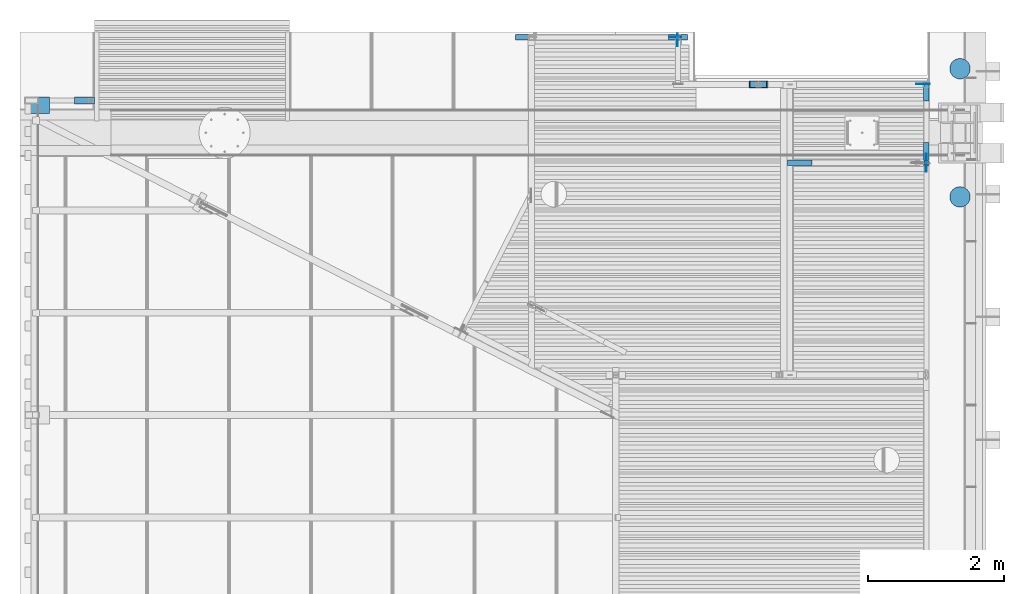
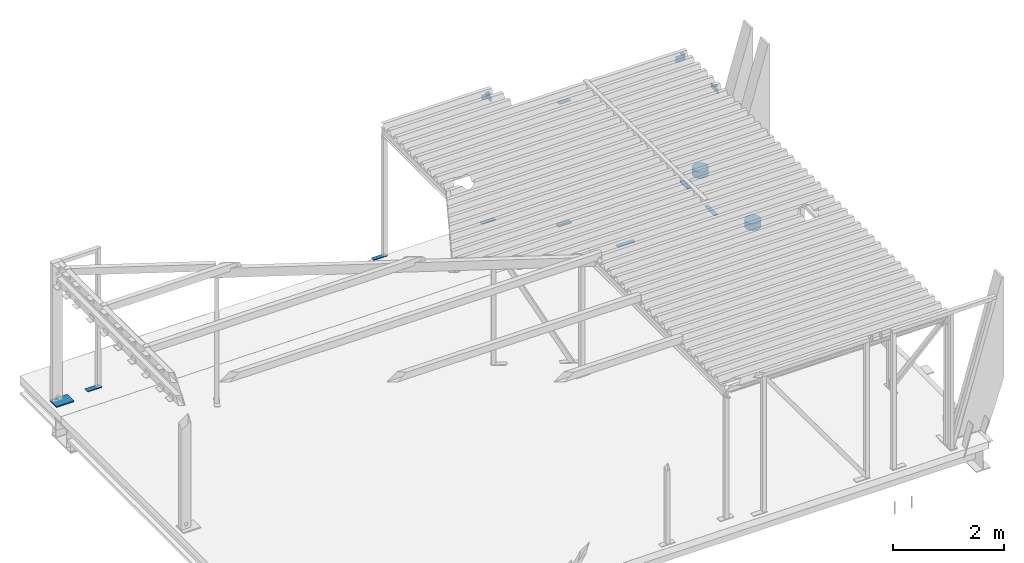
# One storey, part 5 of 30: 18 columns.
"""IFC2X3 building model written with IfcOpenShell, lengths in millimetres."""

from ifc_helpers import new_model, entity, si_unit, converted_unit, derived_unit, direction, frame, origin_with_axes, place, context, subcontext, project, spatial, faceted_brep, material, type_object, element, save


model = new_model("IFC2X3")

# Units and contexts
model_context = context("Model", 3, precision=0.01, world=frame((0.0, 4.29681676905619e-09, 0.0)), true_north=direction((4.01073788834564e-13, 1.0)))
plan_context = context("Plan", 3, precision=0.01, world=frame((0.0, 4.29681676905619e-09, 0.0)), true_north=direction((4.01073788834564e-13, 1.0)))
body_context = subcontext(model_context, "Body", "Model", "MODEL_VIEW")
ifc_project = project(units=[converted_unit("PLANEANGLEUNIT", "DEGREE", entity("IfcPositiveLengthMeasure", 0.0174532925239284), si_unit("PLANEANGLEUNIT", "RADIAN"), dimensions=[0, 0, 0, 0, 0, 0, 0]), si_unit("AREAUNIT", "SQUARE_METRE"), si_unit("LENGTHUNIT", "METRE", prefix="MILLI"), si_unit("MASSUNIT", "GRAM", prefix="KILO"), si_unit("POWERUNIT", "WATT"), si_unit("PRESSUREUNIT", "PASCAL"), si_unit("FORCEUNIT", "NEWTON", prefix="KILO"), si_unit("ELECTRICVOLTAGEUNIT", "VOLT"), si_unit("ELECTRICCURRENTUNIT", "AMPERE"), si_unit("THERMODYNAMICTEMPERATUREUNIT", "DEGREE_CELSIUS"), si_unit("TIMEUNIT", "SECOND"), si_unit("VOLUMEUNIT", "CUBIC_METRE"), derived_unit("LINEARVELOCITYUNIT", [(si_unit("LENGTHUNIT", "METRE"), 1), (si_unit("TIMEUNIT", "SECOND"), -1)]), derived_unit("VOLUMETRICFLOWRATEUNIT", [(si_unit("VOLUMEUNIT", "CUBIC_METRE"), 1), (si_unit("TIMEUNIT", "SECOND"), -1)]), derived_unit("THERMALTRANSMITTANCEUNIT", [(si_unit("POWERUNIT", "WATT"), 1), (si_unit("THERMODYNAMICTEMPERATUREUNIT", "KELVIN"), -1), (si_unit("AREAUNIT", "SQUARE_METRE"), -1)]), derived_unit("SOUNDPRESSUREUNIT", [(si_unit("PRESSUREUNIT", "PASCAL"), 1)])], contexts=[model_context, plan_context])

# Site, building, storey
site_placement = place(None, frame((0.0, -4.29681676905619e-09, 0.0), z_axis=(0.0, 0.0, 1.0), x_axis=(1.0, 0.0, 0.0)))
site = spatial("IfcSite", under=ifc_project, at=site_placement, Name="Gardermoen", CompositionType="ELEMENT")
building_placement = place(site_placement, frame((0.0, 4.29681676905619e-09, 0.0), z_axis=(0.0, 0.0, 1.0), x_axis=(1.0, 0.0, 0.0)))
building = spatial("IfcBuilding", under=site, at=building_placement, Name="TI", CompositionType="ELEMENT")
storey_placement = place(building_placement, origin_with_axes())
storey = spatial("IfcBuildingStorey", under=building, at=storey_placement, Name="F", CompositionType="ELEMENT", Elevation=0.0)

# Columns
ifc_material_1 = material(Name="STEEL/S355")
column_type_1 = type_object("IfcColumnType", Name="PL8*140", PredefinedType="NOTDEFINED")
column_1_placement = place(storey_placement, frame((611239.642295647, 698716.654240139, 213679.999885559), z_axis=(0.0, 0.0, -1.0), x_axis=(0.999999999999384, -1.10999957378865e-06, 0.0)))
element("IfcColumn", 1, at=column_1_placement, inside=storey, type_object=column_type_1, material=ifc_material_1, Name="STÅLSØYLE", ObjectType="PL8*140", context=body_context, shape_type="Brep", body=[
    faceted_brep([(-5.82076609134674e-11, -3.99999999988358, 0.0), (-100.000053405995, -3.99999999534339, 0.0), (-100.000053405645, 4.00000000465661, 0.0), (-5.82076609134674e-11, 4.00000000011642, -5.82076609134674e-11), (-100.000053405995, -3.99999999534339, 140.0), (-100.000053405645, 4.00000000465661, 140.0), (99.9999999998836, -4.00000000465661, 140.0), (100.000000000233, 3.9999999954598, 140.0), (100.0, -4.0, 0.0), (100.0, 4.0, 0.0)], [[[0, 1, 2, 3]], [[1, 4, 5, 2]], [[4, 6, 7, 5]], [[6, 8, 9, 7]], [[8, 0, 3, 9]], [[5, 7, 9, 3, 2]], [[8, 6, 4, 1, 0]]]),
])
column_type_2 = type_object("IfcColumnType", Name="PL15*100", PredefinedType="NOTDEFINED")
column_2_placement = place(storey_placement, frame((598800.004766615, 698474.003958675, 210837.5), z_axis=(3.9659997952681e-06, 0.999999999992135, 0.0), x_axis=(0.999999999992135, -3.9659997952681e-06, 0.0)))
element("IfcColumn", 2, at=column_2_placement, inside=storey, type_object=column_type_2, material=ifc_material_1, Name="STÅLSØYLE", ObjectType="PL15*100", context=body_context, shape_type="Brep", body=[
    faceted_brep([(2.3283064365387e-10, 7.5, -50.0), (-3.49245965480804e-10, 7.5, 50.0), (290.00284047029, 7.5, 50.0000000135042), (290.00284047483, 7.5, -49.99999998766), (-3.49245965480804e-10, -7.5, 50.0), (290.00284047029, -7.5, 50.0000000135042), (2.3283064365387e-10, -7.5, -50.0), (290.00284047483, -7.5, -49.99999998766)], [[[0, 1, 2, 3]], [[1, 4, 5, 2]], [[4, 6, 7, 5]], [[6, 0, 3, 7]], [[5, 7, 3, 2]], [[6, 4, 1, 0]]]),
])
column_type_3 = type_object("IfcColumnType", Name="PL15*280", PredefinedType="NOTDEFINED")
column_3_placement = place(storey_placement, frame((608828.654089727, 698659.99245564, 210837.5), z_axis=(-1.0, 0.0, 0.0), x_axis=(0.0, 1.0, 0.0)))
element("IfcColumn", 3, at=column_3_placement, inside=storey, type_object=column_type_3, material=ifc_material_1, Name="STÅLSØYLE", ObjectType="PL15*280", context=body_context, shape_type="Brep", body=[
    faceted_brep([(0.0, 7.5, -140.0), (0.0, 7.5, 140.0), (100.000000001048, 7.5, 140.0), (100.000000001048, 7.5, -140.0), (0.0, -7.5, 140.0), (100.000000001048, -7.5, 140.0), (0.0, -7.5, -140.0), (100.000000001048, -7.5, -140.0)], [[[0, 1, 2, 3]], [[1, 4, 5, 2]], [[4, 6, 7, 5]], [[6, 0, 3, 7]], [[5, 7, 3, 2]], [[6, 4, 1, 0]]]),
])
for number, where, z_axis, x_axis in (
    (4, (611249.636884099, 698610.072453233, 210887.5), (6.96140001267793e-05, 0.999999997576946, 0.0), (0.999999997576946, -6.96140001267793e-05, 0.0)),
    (5, (605402.913115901, 699360.493174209, 210887.5), (-1.0, 0.0, 0.0), (0.0, 1.0, 0.0)),
    (6, (607650.013115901, 699360.503174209, 210887.5), (-1.0, 0.0, 0.0), (0.0, 1.0, 0.0)),
):
    element("IfcColumn", number, at=place(storey_placement, frame(where, z_axis=z_axis, x_axis=x_axis)), inside=storey, type_object=column_type_3, material=ifc_material_1, Name="STÅLSØYLE", ObjectType="PL15*280", context=body_context, shape_type="Brep", body=[
        faceted_brep([(0.0, 7.5, -140.0), (0.0, 7.5, 140.0), (80.0006628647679, 7.5, 139.999999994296), (80.0006628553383, 7.5, -139.999999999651), (0.0, -7.5, 140.0), (80.0006628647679, -7.5, 139.999999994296), (0.0, -7.5, -140.0), (80.0006628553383, -7.5, -139.999999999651)], [[[0, 1, 2, 3]], [[1, 4, 5, 2]], [[4, 6, 7, 5]], [[6, 0, 3, 7]], [[5, 7, 3, 2]], [[6, 4, 1, 0]]]),
    ])
ifc_material_2 = material(Name="STEEL/S355J0")
column_type_4 = type_object("IfcColumnType", Name="PL8*105", PredefinedType="NOTDEFINED")
for number, where, z_axis, x_axis in (
    (7, (607600.012285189, 699407.847885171, 213682.499911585), (-2.87545844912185e-11, -4.52680543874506e-17, -1.0), (0.999999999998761, 1.57428998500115e-06, -2.87545844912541e-11)),
    (8, (607642.652571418, 699350.506707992, 213682.499809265), (0.0, 0.0, -1.0), (0.0, 1.0, 0.0)),
):
    element("IfcColumn", number, at=place(storey_placement, frame(where, z_axis=z_axis, x_axis=x_axis)), inside=storey, type_object=column_type_4, material=ifc_material_2, Name="STÅLSØYLE", ObjectType="PL8*105", context=body_context, shape_type="Brep", body=[
        faceted_brep([(-5.82076609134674e-11, -3.99999999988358, 0.0), (-80.0000457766, -3.99999999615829, 0.0), (-80.0000457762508, 4.00000000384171, 0.0), (-5.82076609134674e-11, 4.00000000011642, -5.82076609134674e-11), (-80.0000457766, -3.99999999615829, 105.0), (-80.0000457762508, 4.00000000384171, 105.0), (100.000000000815, -4.00000000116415, 105.0), (100.000000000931, 3.99999999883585, 105.0), (100.0, -4.0, 0.0), (100.0, 4.0, 0.0)], [[[0, 1, 2, 3]], [[1, 4, 5, 2]], [[4, 6, 7, 5]], [[6, 8, 9, 7]], [[8, 0, 3, 9]], [[5, 7, 9, 3, 2]], [[8, 6, 4, 1, 0]]]),
    ])
column_4_placement = place(storey_placement, frame((611289.6404335, 697511.018772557, 213682.499894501), z_axis=(0.0, 0.0, -1.0), x_axis=(0.0, 1.0, 0.0)))
element("IfcColumn", 9, at=column_4_placement, inside=storey, type_object=column_type_4, material=ifc_material_2, Name="STÅLSØYLE", ObjectType="PL8*105", context=body_context, shape_type="Brep", body=[
    faceted_brep([(-5.82076609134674e-11, -3.99999999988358, 0.0), (-80.0000457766, -3.99999999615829, 0.0), (-80.0000457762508, 4.00000000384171, 0.0), (-5.82076609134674e-11, 4.00000000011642, -5.82076609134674e-11), (-80.0000457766, -3.99999999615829, 105.0), (-80.0000457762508, 4.00000000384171, 105.0), (180.000015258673, -3.99999999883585, 105.0), (180.000015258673, 4.00000000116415, 105.0), (180.000015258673, -3.99999999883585, -9.02218744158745e-10), (180.000015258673, 4.00000000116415, -9.02218744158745e-10)], [[[0, 1, 2, 3]], [[1, 4, 5, 2]], [[4, 6, 7, 5]], [[6, 8, 9, 7]], [[8, 0, 3, 9]], [[5, 7, 9, 3, 2]], [[8, 6, 4, 1, 0]]]),
])
column_type_5 = type_object("IfcColumnType", Name="PL5*72", PredefinedType="NOTDEFINED")
for number, where, z_axis, x_axis in (
    (10, (607650.012290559, 699364.508773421, 213697.5), (1.0, 0.0, 0.0), (0.0, 1.0, 0.0)),
    (11, (611289.642290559, 698674.068773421, 213697.5), (1.0, 0.0, 0.0), (0.0, 1.0, 0.0)),
    (12, (611289.642290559, 697525.018773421, 213697.5), (1.0, 0.0, 0.0), (0.0, 1.0, 0.0)),
):
    element("IfcColumn", number, at=place(storey_placement, frame(where, z_axis=z_axis, x_axis=x_axis)), inside=storey, type_object=column_type_5, material=ifc_material_2, Name="STÅLSØYLE", ObjectType="PL5*72", context=body_context, shape_type="Brep", body=[
        faceted_brep([(0.0, 2.5, -36.0), (0.0, 2.5, 36.0), (72.0, 2.5, 36.0), (72.0, 2.5, -36.0), (0.0, -2.5, 36.0), (72.0, -2.5, 36.0), (0.0, -2.5, -36.0), (72.0, -2.5, -36.0)], [[[0, 1, 2, 3]], [[1, 4, 5, 2]], [[4, 6, 7, 5]], [[6, 0, 3, 7]], [[5, 7, 3, 2]], [[6, 4, 1, 0]]]),
    ])
column_type_6 = type_object("IfcColumnType", Name="PL15*80", PredefinedType="NOTDEFINED")
column_5_placement = place(storey_placement, frame((609255.750786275, 697521.022426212, 210887.503277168), z_axis=(-9.7906397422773e-06, 0.999999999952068, -8.39968561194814e-08), x_axis=(0.999999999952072, 9.79063974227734e-06, 7.47874489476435e-14)))
element("IfcColumn", 13, at=column_5_placement, inside=storey, type_object=column_type_6, material=ifc_material_1, Name="STÅLSØYLE", ObjectType="PL15*80", context=body_context, shape_type="Brep", body=[
    faceted_brep([(0.0, -7.5, 0.0), (-0.000528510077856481, -7.5, 79.9989624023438), (-0.000528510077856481, 7.5, 79.9989624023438), (0.0, 7.5, 0.0), (359.999420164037, -7.5, 79.9989624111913), (359.999420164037, 7.5, 79.9989624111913), (360.0, -7.5, 2.79396772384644e-08), (360.0, 7.5, 2.79396772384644e-08)], [[[0, 1, 2, 3]], [[1, 4, 5, 2]], [[4, 6, 7, 5]], [[6, 0, 3, 7]], [[5, 7, 3, 2]], [[6, 4, 1, 0]]]),
])
column_6_placement = place(storey_placement, frame((611329.637573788, 697511.021932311, 210887.5), z_axis=(-0.999999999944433, -1.0542000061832e-05, 2.62532909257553e-27), x_axis=(-1.0542000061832e-05, 0.99999999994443, -8.39968561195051e-08)))
element("IfcColumn", 14, at=column_6_placement, inside=storey, type_object=column_type_6, material=ifc_material_1, Name="STÅLSØYLE", ObjectType="PL15*80", context=body_context, shape_type="Brep", body=[
    faceted_brep([(0.0, -7.5, 0.0), (-0.000737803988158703, -7.5, 80.0089340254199), (-0.000737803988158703, 7.5, 80.0089340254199), (0.0, 7.5, 0.0), (349.999267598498, -7.5, 80.0089340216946), (349.999267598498, 7.5, 80.0089340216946), (350.000000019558, -7.5, 8.14907252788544e-10), (350.000000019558, 7.5, 8.14907252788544e-10)], [[[0, 1, 2, 3]], [[1, 4, 5, 2]], [[4, 6, 7, 5]], [[6, 0, 3, 7]], [[5, 7, 3, 2]], [[6, 4, 1, 0]]]),
])
column_type_7 = type_object("IfcColumnType", Name="PL8*95", PredefinedType="NOTDEFINED")
column_7_placement = place(storey_placement, frame((608708.652290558, 698709.99686063, 213515.999885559), z_axis=(-7.63999967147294e-07, -0.999999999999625, 4.08999981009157e-07), x_axis=(0.999999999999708, -7.63999967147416e-07, -1.41513832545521e-13)))
element("IfcColumn", 15, at=column_7_placement, inside=storey, type_object=column_type_7, material=ifc_material_2, Name="STÅLSØYLE", ObjectType="PL8*95", context=body_context, shape_type="Brep", body=[
    faceted_brep([(1.97906047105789e-09, 4.0, -47.5000000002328), (-1.62981450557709e-09, 4.0, 47.5000000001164), (240.000000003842, 4.0, 47.499999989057), (239.999999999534, 4.0, -47.5000000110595), (-1.62981450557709e-09, -4.0, 47.5000000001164), (240.000000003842, -4.0, 47.499999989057), (1.97906047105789e-09, -4.0, -47.5000000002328), (239.999999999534, -4.0, -47.5000000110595)], [[[0, 1, 2, 3]], [[1, 4, 5, 2]], [[4, 6, 7, 5]], [[6, 0, 3, 7]], [[5, 7, 3, 2]], [[6, 4, 1, 0]]]),
])
column_type_8 = type_object("IfcColumnType", Name="PL25*240", PredefinedType="NOTDEFINED")
column_8_placement = place(storey_placement, frame((598069.707407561, 698404.012606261, 210842.5), z_axis=(0.0, 1.0, 0.0), x_axis=(1.0, 0.0, 0.0)))
element("IfcColumn", 16, at=column_8_placement, inside=storey, type_object=column_type_8, material=ifc_material_1, Name="STÅLSØYLE", ObjectType="PL25*240", context=body_context, shape_type="Brep", body=[
    faceted_brep([(132.630378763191, -12.5, 56.6110358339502), (132.630378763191, 12.5, 56.6110358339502), (125.043332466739, 12.5, 45.2562186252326), (125.043332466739, -12.5, 45.2562186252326), (113.688515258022, 12.5, 37.6691723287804), (113.688515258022, -12.5, 37.6691723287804), (100.294595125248, 12.5, 35.0049559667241), (100.294595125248, -12.5, 35.0049559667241), (86.9006749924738, 12.5, 37.6691723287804), (86.9006749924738, -12.5, 37.6691723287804), (75.5458577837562, 12.5, 45.2562186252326), (75.5458577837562, -12.5, 45.2562186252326), (67.958811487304, 12.5, 56.6110358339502), (67.958811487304, -12.5, 56.6110358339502), (65.2945951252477, 12.5, 70.0049559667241), (65.2945951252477, -12.5, 70.0049559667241), (67.958811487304, 12.5, 83.398876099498), (67.958811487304, -12.5, 83.398876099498), (75.5458577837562, 12.5, 94.7536933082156), (75.5458577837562, -12.5, 94.7536933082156), (86.9006749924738, 12.5, 102.340739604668), (86.9006749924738, -12.5, 102.340739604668), (100.294595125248, 12.5, 105.004955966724), (100.294595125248, -12.5, 105.004955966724), (113.688515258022, 12.5, 102.340739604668), (113.688515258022, -12.5, 102.340739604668), (125.043332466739, 12.5, 94.7536933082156), (125.043332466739, -12.5, 94.7536933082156), (132.630378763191, 12.5, 83.398876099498), (132.630378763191, -12.5, 83.398876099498), (135.294595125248, 12.5, 70.0049559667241), (135.294595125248, -12.5, 70.0049559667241), (0.0, -12.5, 120.0), (0.0, -12.5, -120.0), (360.0, -12.5, -120.0), (360.0, -12.5, 120.0), (0.0, 12.5, 120.0), (360.0, 12.5, 120.0), (0.0, 12.5, -120.0), (360.0, 12.5, -120.0)], [[[0, 1, 2, 3]], [[3, 2, 4, 5]], [[5, 4, 6, 7]], [[7, 6, 8, 9]], [[9, 8, 10, 11]], [[11, 10, 12, 13]], [[13, 12, 14, 15]], [[15, 14, 16, 17]], [[17, 16, 18, 19]], [[19, 18, 20, 21]], [[21, 20, 22, 23]], [[23, 22, 24, 25]], [[25, 24, 26, 27]], [[27, 26, 28, 29]], [[29, 28, 30, 31]], [[31, 30, 1, 0]], [[32, 33, 34, 35], [3, 5, 7, 9, 11, 13, 15, 17, 19, 21, 23, 25, 27, 29, 31, 0]], [[36, 32, 35, 37]], [[33, 32, 36, 38]], [[33, 38, 39, 34]], [[35, 34, 39, 37]], [[38, 36, 37, 39], [26, 24, 22, 20, 18, 16, 14, 12, 10, 8, 6, 4, 2, 1, 30, 28]]]),
])
ifc_material_3 = material(Name="CONCRETE/C35/45")
column_type_9 = type_object("IfcColumnType", Name="D300", PredefinedType="NOTDEFINED")
column_9_placement = place(storey_placement, frame((611785.0, 697060.0, 210750.0), z_axis=(0.0, 1.0, 0.0), x_axis=(-2.8979999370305e-06, 0.0, 0.999999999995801)))
element("IfcColumn", 17, at=column_9_placement, inside=storey, type_object=column_type_9, material=ifc_material_3, Name="UTSPARING", ObjectType="D300", context=body_context, shape_type="Brep", body=[
    faceted_brep([(7.27595761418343e-12, -150.0, -1.16415321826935e-10), (7.27595761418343e-10, -147.117792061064, -29.2635483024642), (150.000508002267, -147.117792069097, -29.2635483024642), (150.000508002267, -150.000000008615, 0.0), (6.98491930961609e-10, -138.581929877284, -57.4025148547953), (150.000508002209, -138.581929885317, -57.4025148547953), (6.11180439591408e-10, -124.720441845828, -83.3355349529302), (150.000508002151, -124.72044185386, -83.3355349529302), (5.23868948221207e-10, -106.066017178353, -106.066017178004), (150.000508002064, -106.066017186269, -106.066017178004), (4.07453626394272e-10, -83.335534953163, -124.720441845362), (150.000508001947, -83.3355349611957, -124.720441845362), (2.91038304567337e-10, -57.4025148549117, -138.581929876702), (150.000508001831, -57.402514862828, -138.581929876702), (1.74622982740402e-10, -29.2635483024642, -147.117792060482), (150.000508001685, -29.2635483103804, -147.117792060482), (0.0, 2.3283064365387e-10, -150.0), (150.00050800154, -7.79982656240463e-09, -150.0), (-1.45519152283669e-10, 29.263548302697, -147.117792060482), (150.000508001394, 29.2635482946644, -147.117792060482), (-2.61934474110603e-10, 57.4025148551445, -138.581929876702), (150.000508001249, 57.4025148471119, -138.581929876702), (-3.78349795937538e-10, 83.3355349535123, -124.720441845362), (150.000508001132, 83.3355349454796, -124.720441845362), (-4.94765117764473e-10, 106.066017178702, -106.066017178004), (150.000508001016, 106.06601717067, -106.066017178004), (-5.82076609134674e-10, 124.720441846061, -83.3355349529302), (150.000508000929, 124.720441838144, -83.3355349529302), (-6.69388100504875e-10, 138.581929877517, -57.4025148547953), (150.000508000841, 138.581929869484, -57.4025148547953), (-6.98491930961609e-10, 147.117792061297, -29.2635483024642), (150.000508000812, 147.117792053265, -29.2635483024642), (7.27595761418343e-12, 150.0, -1.16415321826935e-10), (150.000508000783, 149.999999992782, 0.0), (-6.98491930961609e-10, 147.117792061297, 29.2635483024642), (150.000508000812, 147.117792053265, 29.2635483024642), (-6.69388100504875e-10, 138.581929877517, 57.4025148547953), (150.000508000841, 138.581929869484, 57.4025148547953), (-5.82076609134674e-10, 124.720441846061, 83.3355349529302), (150.000508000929, 124.720441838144, 83.3355349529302), (-4.94765117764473e-10, 106.066017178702, 106.066017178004), (150.000508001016, 106.06601717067, 106.066017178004), (-3.78349795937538e-10, 83.3355349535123, 124.720441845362), (150.000508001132, 83.3355349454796, 124.720441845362), (-2.61934474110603e-10, 57.4025148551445, 138.581929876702), (150.000508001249, 57.4025148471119, 138.581929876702), (-1.45519152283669e-10, 29.263548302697, 147.117792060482), (150.000508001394, 29.2635482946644, 147.117792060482), (0.0, 2.3283064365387e-10, 150.0), (150.00050800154, -7.79982656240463e-09, 150.0), (1.74622982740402e-10, -29.2635483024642, 147.117792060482), (150.000508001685, -29.2635483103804, 147.117792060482), (2.91038304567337e-10, -57.4025148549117, 138.581929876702), (150.000508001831, -57.402514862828, 138.581929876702), (4.07453626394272e-10, -83.335534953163, 124.720441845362), (150.000508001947, -83.3355349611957, 124.720441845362), (5.23868948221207e-10, -106.066017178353, 106.066017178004), (150.000508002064, -106.066017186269, 106.066017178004), (6.11180439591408e-10, -124.720441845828, 83.3355349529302), (150.000508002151, -124.72044185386, 83.3355349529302), (6.98491930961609e-10, -138.581929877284, 57.4025148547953), (150.000508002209, -138.581929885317, 57.4025148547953), (7.27595761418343e-10, -147.117792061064, 29.2635483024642), (150.000508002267, -147.117792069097, 29.2635483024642)], [[[0, 1, 2, 3]], [[1, 4, 5, 2]], [[4, 6, 7, 5]], [[6, 8, 9, 7]], [[8, 10, 11, 9]], [[10, 12, 13, 11]], [[12, 14, 15, 13]], [[14, 16, 17, 15]], [[16, 18, 19, 17]], [[18, 20, 21, 19]], [[20, 22, 23, 21]], [[22, 24, 25, 23]], [[24, 26, 27, 25]], [[26, 28, 29, 27]], [[28, 30, 31, 29]], [[30, 32, 33, 31]], [[32, 34, 35, 33]], [[34, 36, 37, 35]], [[36, 38, 39, 37]], [[38, 40, 41, 39]], [[40, 42, 43, 41]], [[42, 44, 45, 43]], [[44, 46, 47, 45]], [[46, 48, 49, 47]], [[48, 50, 51, 49]], [[50, 52, 53, 51]], [[52, 54, 55, 53]], [[54, 56, 57, 55]], [[56, 58, 59, 57]], [[58, 60, 61, 59]], [[60, 62, 63, 61]], [[62, 0, 3, 63]], [[5, 7, 9, 11, 13, 15, 17, 19, 21, 23, 25, 27, 29, 31, 33, 35, 37, 39, 41, 43, 45, 47, 49, 51, 53, 55, 57, 59, 61, 63, 3, 2]], [[62, 60, 58, 56, 54, 52, 50, 48, 46, 44, 42, 40, 38, 36, 34, 32, 30, 28, 26, 24, 22, 20, 18, 16, 14, 12, 10, 8, 6, 4, 1, 0]]]),
])
column_10_placement = place(storey_placement, frame((611785.0, 698940.0, 210750.0), z_axis=(0.0, 1.0, 0.0), x_axis=(-2.8979999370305e-06, 0.0, 0.999999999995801)))
element("IfcColumn", 18, at=column_10_placement, inside=storey, type_object=column_type_9, material=ifc_material_3, Name="UTSPARING", ObjectType="D300", context=body_context, shape_type="Brep", body=[
    faceted_brep([(7.27595761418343e-12, -150.0, -1.16415321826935e-10), (7.27595761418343e-10, -147.117792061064, -29.2635483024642), (150.000508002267, -147.117792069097, -29.2635483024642), (150.000508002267, -150.000000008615, 0.0), (6.98491930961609e-10, -138.581929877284, -57.4025148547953), (150.000508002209, -138.581929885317, -57.4025148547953), (6.11180439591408e-10, -124.720441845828, -83.3355349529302), (150.000508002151, -124.72044185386, -83.3355349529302), (5.23868948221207e-10, -106.066017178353, -106.066017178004), (150.000508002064, -106.066017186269, -106.066017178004), (4.07453626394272e-10, -83.335534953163, -124.720441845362), (150.000508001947, -83.3355349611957, -124.720441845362), (2.91038304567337e-10, -57.4025148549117, -138.581929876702), (150.000508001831, -57.402514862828, -138.581929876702), (1.74622982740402e-10, -29.2635483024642, -147.117792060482), (150.000508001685, -29.2635483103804, -147.117792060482), (0.0, 2.3283064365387e-10, -150.0), (150.00050800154, -7.79982656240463e-09, -150.0), (-1.45519152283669e-10, 29.263548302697, -147.117792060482), (150.000508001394, 29.2635482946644, -147.117792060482), (-2.61934474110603e-10, 57.4025148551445, -138.581929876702), (150.000508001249, 57.4025148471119, -138.581929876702), (-3.78349795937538e-10, 83.3355349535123, -124.720441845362), (150.000508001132, 83.3355349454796, -124.720441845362), (-4.94765117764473e-10, 106.066017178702, -106.066017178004), (150.000508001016, 106.06601717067, -106.066017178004), (-5.82076609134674e-10, 124.720441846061, -83.3355349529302), (150.000508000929, 124.720441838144, -83.3355349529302), (-6.69388100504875e-10, 138.581929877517, -57.4025148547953), (150.000508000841, 138.581929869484, -57.4025148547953), (-6.98491930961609e-10, 147.117792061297, -29.2635483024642), (150.000508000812, 147.117792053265, -29.2635483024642), (7.27595761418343e-12, 150.0, -1.16415321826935e-10), (150.000508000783, 149.999999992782, 0.0), (-6.98491930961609e-10, 147.117792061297, 29.2635483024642), (150.000508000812, 147.117792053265, 29.2635483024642), (-6.69388100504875e-10, 138.581929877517, 57.4025148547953), (150.000508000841, 138.581929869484, 57.4025148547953), (-5.82076609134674e-10, 124.720441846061, 83.3355349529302), (150.000508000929, 124.720441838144, 83.3355349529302), (-4.94765117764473e-10, 106.066017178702, 106.066017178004), (150.000508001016, 106.06601717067, 106.066017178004), (-3.78349795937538e-10, 83.3355349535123, 124.720441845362), (150.000508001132, 83.3355349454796, 124.720441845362), (-2.61934474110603e-10, 57.4025148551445, 138.581929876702), (150.000508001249, 57.4025148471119, 138.581929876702), (-1.45519152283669e-10, 29.263548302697, 147.117792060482), (150.000508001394, 29.2635482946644, 147.117792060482), (0.0, 2.3283064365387e-10, 150.0), (150.00050800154, -7.79982656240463e-09, 150.0), (1.74622982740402e-10, -29.2635483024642, 147.117792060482), (150.000508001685, -29.2635483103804, 147.117792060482), (2.91038304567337e-10, -57.4025148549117, 138.581929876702), (150.000508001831, -57.402514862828, 138.581929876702), (4.07453626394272e-10, -83.335534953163, 124.720441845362), (150.000508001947, -83.3355349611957, 124.720441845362), (5.23868948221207e-10, -106.066017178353, 106.066017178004), (150.000508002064, -106.066017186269, 106.066017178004), (6.11180439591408e-10, -124.720441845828, 83.3355349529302), (150.000508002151, -124.72044185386, 83.3355349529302), (6.98491930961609e-10, -138.581929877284, 57.4025148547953), (150.000508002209, -138.581929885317, 57.4025148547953), (7.27595761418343e-10, -147.117792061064, 29.2635483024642), (150.000508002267, -147.117792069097, 29.2635483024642)], [[[0, 1, 2, 3]], [[1, 4, 5, 2]], [[4, 6, 7, 5]], [[6, 8, 9, 7]], [[8, 10, 11, 9]], [[10, 12, 13, 11]], [[12, 14, 15, 13]], [[14, 16, 17, 15]], [[16, 18, 19, 17]], [[18, 20, 21, 19]], [[20, 22, 23, 21]], [[22, 24, 25, 23]], [[24, 26, 27, 25]], [[26, 28, 29, 27]], [[28, 30, 31, 29]], [[30, 32, 33, 31]], [[32, 34, 35, 33]], [[34, 36, 37, 35]], [[36, 38, 39, 37]], [[38, 40, 41, 39]], [[40, 42, 43, 41]], [[42, 44, 45, 43]], [[44, 46, 47, 45]], [[46, 48, 49, 47]], [[48, 50, 51, 49]], [[50, 52, 53, 51]], [[52, 54, 55, 53]], [[54, 56, 57, 55]], [[56, 58, 59, 57]], [[58, 60, 61, 59]], [[60, 62, 63, 61]], [[62, 0, 3, 63]], [[5, 7, 9, 11, 13, 15, 17, 19, 21, 23, 25, 27, 29, 31, 33, 35, 37, 39, 41, 43, 45, 47, 49, 51, 53, 55, 57, 59, 61, 63, 3, 2]], [[62, 60, 58, 56, 54, 52, 50, 48, 46, 44, 42, 40, 38, 36, 34, 32, 30, 28, 26, 24, 22, 20, 18, 16, 14, 12, 10, 8, 6, 4, 1, 0]]]),
])

save(model, "model.ifc")
